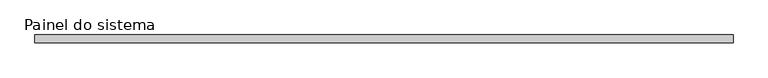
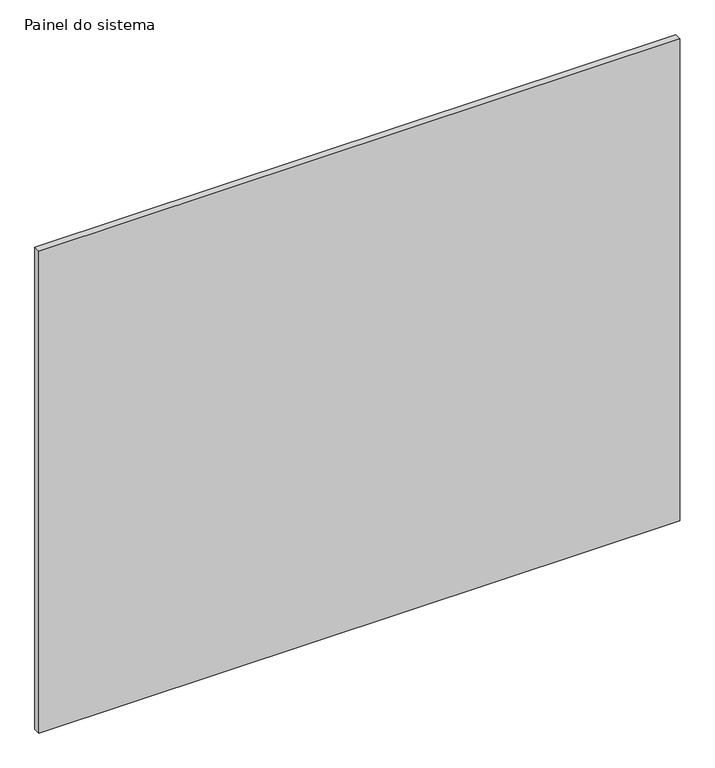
"""IFC4 building model written with IfcOpenShell, lengths in millimetres: plate geometry, Painel do sistema : ALAMBRADO."""

from ifc_helpers import new_model, si_unit, origin, origin_with_axes, place, context, project, spatial, polyline, outline, extrude, source, transform, mapped, element, save


def painel_do_sistema_ab7bcafd(model_context):
    return source(origin(), model_context, "Body", "SweptSolid", [
        extrude(outline(polyline([(1131.5022747, 24.5), (-1131.5022747, 24.5), (-1131.5022747, 49.5), (1131.5022747, 49.5), (1131.5022747, 24.5)])), origin_with_axes(), (0.0, 0.0, 1.0), 1800.0),
    ])


if __name__ == "__main__":
    model = new_model("IFC4")
    model_context = context("Model", 3, world=origin())
    ifc_project = project(units=[si_unit("LENGTHUNIT", "METRE", prefix="MILLI")], contexts=[model_context])
    site = spatial("IfcSite", under=ifc_project)
    building = spatial("IfcBuilding", under=site)
    placement = place(None, origin())
    painel_do_sistema_shape = painel_do_sistema_ab7bcafd(model_context)
    element("IfcPlate", 1, ObjectType="Painel do sistema : ALAMBRADO", at=placement, inside=building, context=model_context, shape_type="MappedRepresentation", body=[
        mapped(painel_do_sistema_shape, transform((0.0, 0.0, 0.0), x_axis=(1.0, 0.0, 0.0), y_axis=(0.0, 1.0, 0.0), z_axis=(0.0, 0.0, 1.0))),
    ])
    save(model, "model.ifc")
